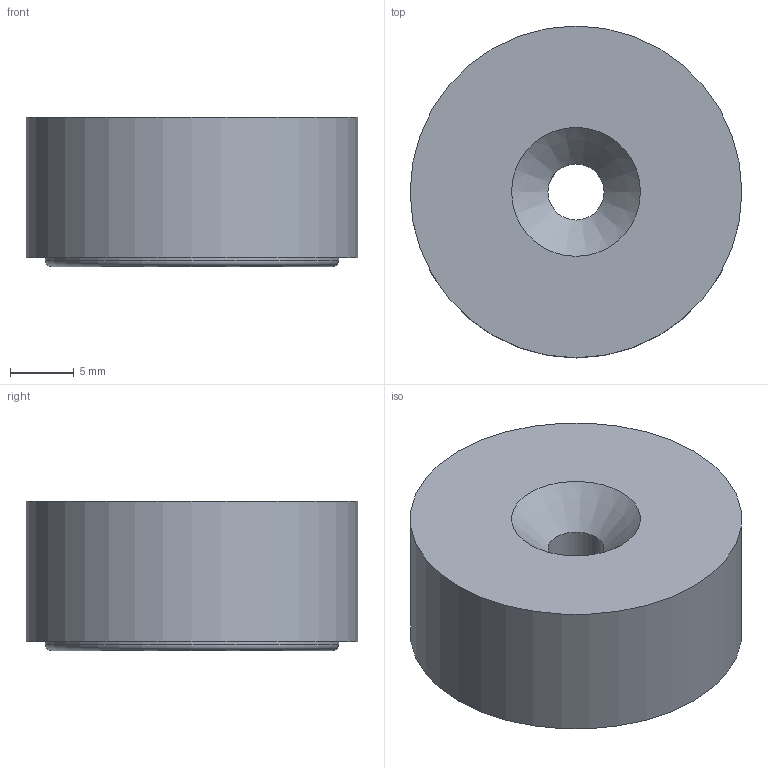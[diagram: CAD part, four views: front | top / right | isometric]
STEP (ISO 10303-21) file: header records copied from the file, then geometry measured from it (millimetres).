
FILE_DESCRIPTION(/* description */ ('Katalogmodell Elobau'),/* implementation_level */ '2;1');
FILE_NAME(/* name */ '300780_C.stp',/* time_stamp */ '2014-06-25T17:49:42+02:00',/* author */ ('Elobau GmbH & Co. KG'),/* organization */ ('Elobau GmbH & Co. KG'),/* preprocessor_version */ 'ST-DEVELOPER v15',/* originating_system */ 'SIEMENS PLM Software NX 8.5',/* authorisation */ '');
FILE_SCHEMA (('AUTOMOTIVE_DESIGN { 1 0 10303 214 3 1 1 1 }'));
Length unit declared in the file: millimetre
Products named in the file (1): 300780_C
Bounding box: 26 x 26 x 11.7 mm (x, y, z)
Volume: 5868.3 mm3; surface area: 2114 mm2
Topology: 1 solids, 1 shells, 8 faces, 14 edges, 9 vertices
Faces by surface type: plane 3, cylinder 3, cone 1, torus 1
Full cylindrical faces by diameter (mm): 4.4 x1, 23 x1, 26 x1
Entity records: 193 total; most frequent: DIRECTION 34, CARTESIAN_POINT 25, AXIS2_PLACEMENT_3D 17, FACE_BOUND 16, EDGE_LOOP 16, ORIENTED_EDGE 16, ADVANCED_FACE 8, VERTEX_POINT 8
